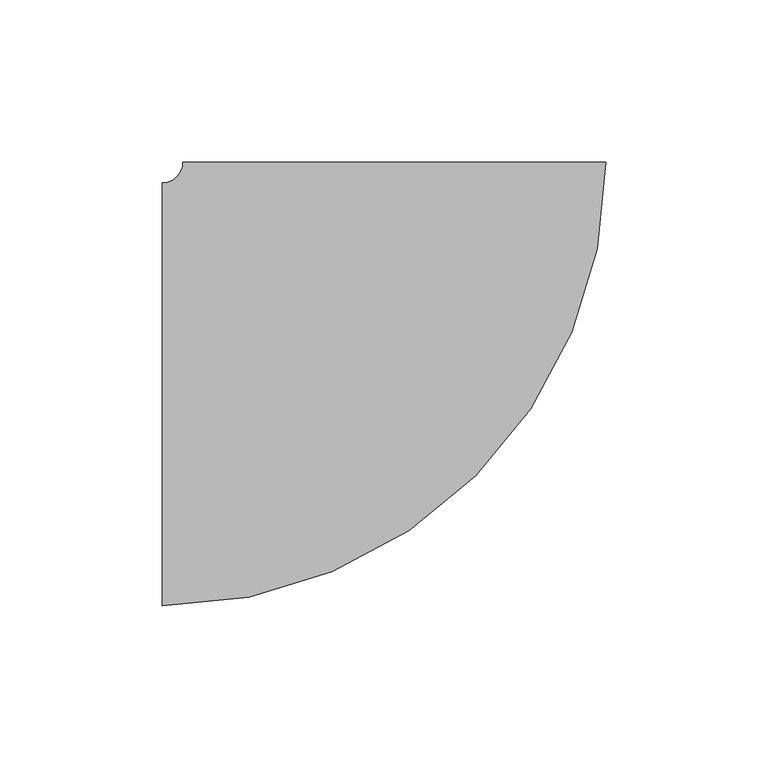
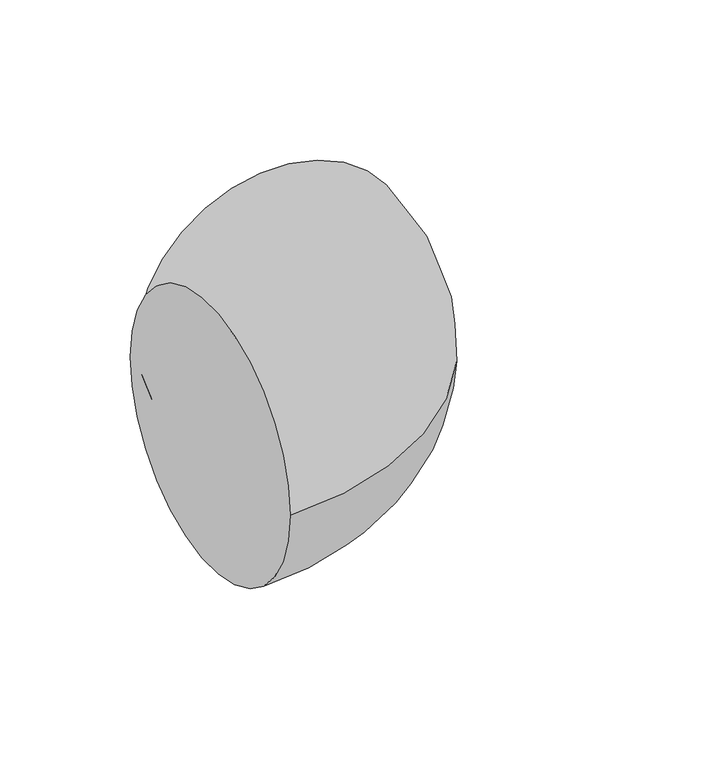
"""IFC4 building model written with IfcOpenShell, lengths in millimetres: pipe fitting geometry, M_Codo - Genérico : Estándar."""

from ifc_helpers import new_model, si_unit, point, frame, origin, place, context, project, spatial, circle_curve, ellipse_curve, trimmed, source, transform, mapped, element, save
from ifc_brep_helpers import plane_surface, revolved_surface, advanced_brep


def pipe_fitting_68ac33cf(model_context):
    return source(origin(), model_context, "Body", "AdvancedBrep", [
        advanced_brep(
        [(-71.4370073, -65.0875, 0.0), (-71.4370073, 65.0875, 0.0), (65.0879927, 71.4365584, 0.0), (-65.0870073, 71.4374562, 0.0)],
        [
            (0, 1, circle_curve(frame((-71.4370073, 0.0, 0.0), z_axis=(-1.0, 0.0, 0.0), x_axis=(0.0, 1.0, 0.0)), 65.0875)),
            (1, 0, circle_curve(frame((-71.4370073, 0.0, 0.0), z_axis=(-1.0, 0.0, 0.0), x_axis=(0.0, 1.0, 0.0)), 65.0875)),
            (2, 3, circle_curve(frame((0.0004927, 71.4370073, 0.0), z_axis=(6.896604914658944e-06, 0.9999999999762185, 0.0), x_axis=(-0.9999999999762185, 6.896604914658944e-06, 0.0)), 65.0875)),
            (3, 2, circle_curve(frame((0.0004927, 71.4370073, 0.0), z_axis=(6.896604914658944e-06, 0.9999999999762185, 0.0), x_axis=(-0.9999999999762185, 6.896604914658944e-06, 0.0)), 65.0875)),
            (3, 1, circle_curve(frame((-71.4370073, 71.4375, 0.0), z_axis=(0.0, 0.0, -1.0), x_axis=(0.0, -1.0, 0.0)), 6.35)),
            (0, 2, circle_curve(frame((-71.4370073, 71.4375, 0.0), z_axis=(0.0, 0.0, 1.0), x_axis=(0.0, -1.0, 0.0)), 136.525)),
        ],
        [
            plane_surface(frame((-71.4370073, 0.0, 0.0), z_axis=(-1.0, 0.0, 0.0), x_axis=(0.0, 0.0, 1.0))),
            plane_surface(frame((0.0004927, 71.4370073, 0.0), z_axis=(6.896604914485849e-06, 0.9999999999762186, 0.0), x_axis=(0.0, 0.0, 1.0))),
            revolved_surface(trimmed(ellipse_curve(frame((-71.4370073, 0.0, 0.0), z_axis=(-1.0, 0.0, 0.0), x_axis=(0.0, 1.0, 0.0)), 65.0875, 65.0875), [point((-71.4370073, -65.0875, 0.0))], [point((-71.4370073, 65.0875, 0.0))], True, "CARTESIAN"), (-71.4370073, 71.4375, 0.0), (0.0, 0.0, 1.0)),
            revolved_surface(trimmed(ellipse_curve(frame((-71.4370073, 0.0, 0.0), z_axis=(-1.0, 0.0, 0.0), x_axis=(0.0, 1.0, 0.0)), 65.0875, 65.0875), [point((-71.4370073, 65.0875, 0.0))], [point((-71.4370073, -65.0875, 0.0))], True, "CARTESIAN"), (-71.4370073, 71.4375, 0.0), (0.0, 0.0, 1.0)),
        ],
        [
            (0, [[1, 2]]),
            (1, [[3, 4]]),
            (2, [[5, -1, 6, -4]]),
            (3, [[-6, -2, -5, -3]]),
        ],
    ),
    ])


if __name__ == "__main__":
    model = new_model("IFC4")
    model_context = context("Model", 3, world=origin())
    ifc_project = project(units=[si_unit("LENGTHUNIT", "METRE", prefix="MILLI")], contexts=[model_context])
    site = spatial("IfcSite", under=ifc_project)
    building = spatial("IfcBuilding", under=site)
    placement = place(None, origin())
    pipe_fitting_shape = pipe_fitting_68ac33cf(model_context)
    element("IfcPipeFitting", 1, ObjectType="M_Codo - Genérico : Estándar", at=placement, inside=building, context=model_context, shape_type="MappedRepresentation", body=[
        mapped(pipe_fitting_shape, transform((0.0, 0.0, 0.0), x_axis=(1.0, 0.0, 0.0), y_axis=(0.0, 1.0, 0.0), z_axis=(0.0, 0.0, 1.0))),
    ])
    save(model, "model.ifc")
